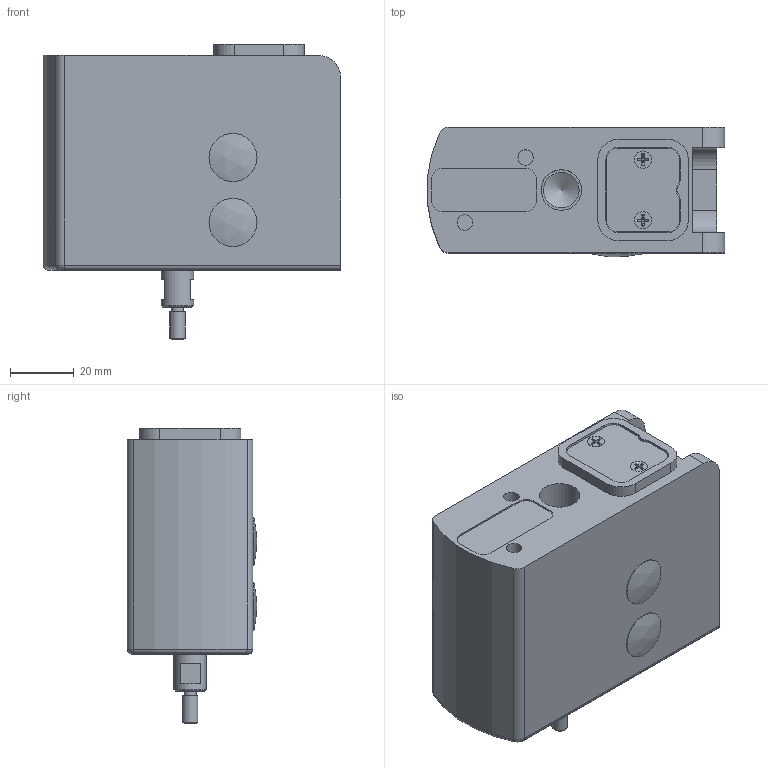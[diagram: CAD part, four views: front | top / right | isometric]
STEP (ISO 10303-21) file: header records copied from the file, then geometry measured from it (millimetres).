
FILE_DESCRIPTION(/* description */ (''),/* implementation_level */ '2;1');
FILE_NAME(/* name */ 'F:\CAD files\Itr\3D MARKETING MODELS\FORCE SENSORS\FS05\FS05_SENSOR.stp',/* time_stamp */ '2021-02-08T14:46:55-05:00',/* author */ ('dsollitt'),/* organization */ (''),/* preprocessor_version */ 'ST-DEVELOPER v18.1',/* originating_system */ 'AutoCAD Mechanical',/* authorisation */ '');
FILE_SCHEMA (('AUTOMOTIVE_DESIGN { 1 0 10303 214 3 1 1 }'));
Length unit declared in the file: inch
Products named in the file (1): Product
Bounding box: 93.18 x 40.53 x 92.71 mm (x, y, z)
Volume: 236143.9 mm3; surface area: 27463.9 mm2
Topology: 1 solids, 3 shells, 158 faces, 408 edges, 277 vertices
Faces by surface type: plane 92, cylinder 44, cone 17, sphere 2, bspline 2, torus 1
Full cylindrical faces by diameter (mm): 3.505 x2, 3.81 x1, 4.826 x3, 10.16 x1, 11.151 x1, 12.7 x1, 15.062 x2
Entity records: 4857 total; most frequent: CARTESIAN_POINT 955, DIRECTION 822, ORIENTED_EDGE 814, EDGE_CURVE 407, AXIS2_PLACEMENT_3D 306, VERTEX_POINT 277, LINE 210, VECTOR 210
